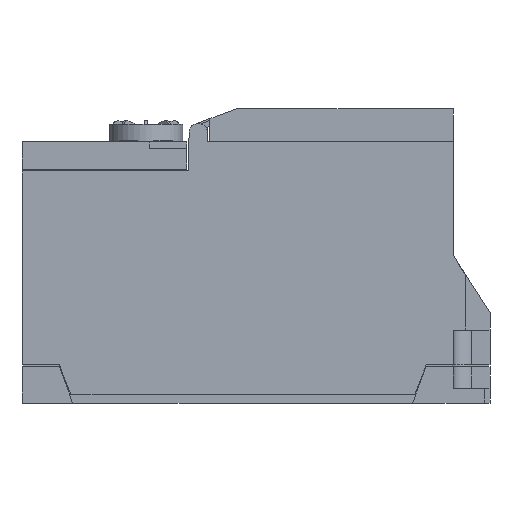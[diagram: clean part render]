
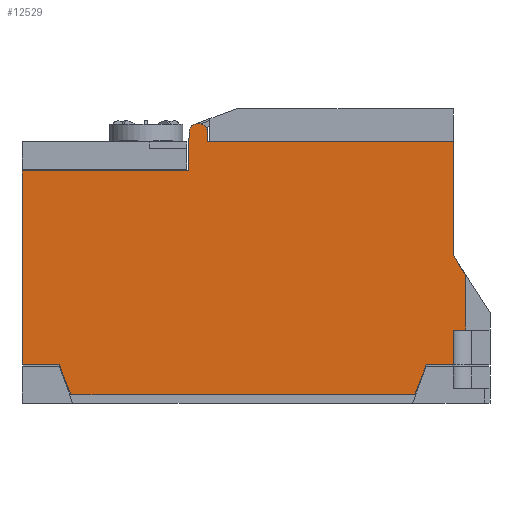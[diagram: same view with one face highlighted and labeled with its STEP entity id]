
A CAD part, left-side view. The second image highlights one B-rep face of the part: STEP entity #12529.
In plain terms, the highlighted planar face has unit normal (-1, 0, 0).
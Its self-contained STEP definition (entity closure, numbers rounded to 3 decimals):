
#1032=DIRECTION('',(0.,-0.362,0.932));
#1033=VECTOR('',#1032,8.796);
#1034=CARTESIAN_POINT('',(-34.,20.589,-7.7));
#1035=LINE('',#1034,#1033);
#1048=DIRECTION('',(0.,-1.,0.));
#1049=VECTOR('',#1048,10.206);
#1050=CARTESIAN_POINT('',(-34.,128.,0.5));
#1051=LINE('',#1050,#1049);
#1052=DIRECTION('',(0.,0.,1.));
#1053=VECTOR('',#1052,53.);
#1054=CARTESIAN_POINT('',(-34.,128.,0.5));
#1055=LINE('',#1054,#1053);
#1056=DIRECTION('',(0.,-0.017,1.));
#1057=VECTOR('',#1056,10.545);
#1058=CARTESIAN_POINT('',(-34.,82.484,53.5));
#1059=LINE('',#1058,#1057);
#1060=CARTESIAN_POINT('',(-34.,79.8,64.));
#1061=DIRECTION('',(1.,0.,0.));
#1062=DIRECTION('',(0.,1.,0.017));
#1063=AXIS2_PLACEMENT_3D('',#1060,#1061,#1062);
#1065=DIRECTION('',(0.,-0.017,-1.));
#1066=VECTOR('',#1065,2.544);
#1067=CARTESIAN_POINT('',(-34.,77.3,64.044));
#1068=LINE('',#1067,#1066);
#1069=DIRECTION('',(0.,0.,-1.));
#1070=VECTOR('',#1069,31.224);
#1071=CARTESIAN_POINT('',(-34.,10.,61.5));
#1072=LINE('',#1071,#1070);
#1073=DIRECTION('',(0.,-0.541,-0.841));
#1074=VECTOR('',#1073,6.281);
#1075=CARTESIAN_POINT('',(-34.,10.,30.276));
#1076=LINE('',#1075,#1074);
#1077=DIRECTION('',(0.,1.,0.));
#1078=VECTOR('',#1077,7.406);
#1079=CARTESIAN_POINT('',(-34.,10.,0.5));
#1080=LINE('',#1079,#1078);
#1097=DIRECTION('',(0.,-0.362,-0.932));
#1098=VECTOR('',#1097,8.796);
#1099=CARTESIAN_POINT('',(-34.,117.794,0.5));
#1100=LINE('',#1099,#1098);
#1256=DIRECTION('',(0.,-1.,0.));
#1257=VECTOR('',#1256,45.516);
#1258=CARTESIAN_POINT('',(-34.,128.,53.5));
#1259=LINE('',#1258,#1257);
#3580=DIRECTION('',(0.,0.,1.));
#3581=VECTOR('',#3580,9.5);
#3582=CARTESIAN_POINT('',(-34.,10.,0.5));
#3583=LINE('',#3582,#3581);
#3608=DIRECTION('',(0.,-1.,0.));
#3609=VECTOR('',#3608,67.256);
#3610=CARTESIAN_POINT('',(-34.,77.256,61.5));
#3611=LINE('',#3610,#3609);
#4718=DIRECTION('',(0.,-1.,0.));
#4719=VECTOR('',#4718,3.4);
#4720=CARTESIAN_POINT('',(-34.,10.,10.));
#4721=LINE('',#4720,#4719);
#4734=DIRECTION('',(0.,0.,-1.));
#4735=VECTOR('',#4734,14.994);
#4736=CARTESIAN_POINT('',(-34.,6.6,24.994));
#4737=LINE('',#4736,#4735);
#4786=DIRECTION('',(0.,-1.,0.));
#4787=VECTOR('',#4786,94.021);
#4788=CARTESIAN_POINT('',(-34.,114.611,-7.7));
#4789=LINE('',#4788,#4787);
#8871=CARTESIAN_POINT('',(-34.,114.611,-7.7));
#8872=CARTESIAN_POINT('',(-34.,20.589,-7.7));
#8873=VERTEX_POINT('',#8871);
#8874=VERTEX_POINT('',#8872);
#8957=CARTESIAN_POINT('',(-34.,128.,53.5));
#8958=VERTEX_POINT('',#8957);
#8961=CARTESIAN_POINT('',(-34.,10.,61.5));
#8963=VERTEX_POINT('',#8961);
#8969=CARTESIAN_POINT('',(-34.,82.3,64.044));
#8970=CARTESIAN_POINT('',(-34.,77.3,64.044));
#8971=VERTEX_POINT('',#8969);
#8972=VERTEX_POINT('',#8970);
#8977=CARTESIAN_POINT('',(-34.,77.256,61.5));
#8978=VERTEX_POINT('',#8977);
#9245=CARTESIAN_POINT('',(-34.,82.484,53.5));
#9246=VERTEX_POINT('',#9245);
#9367=CARTESIAN_POINT('',(-34.,6.6,10.));
#9369=VERTEX_POINT('',#9367);
#9375=CARTESIAN_POINT('',(-34.,10.,10.));
#9376=VERTEX_POINT('',#9375);
#9379=CARTESIAN_POINT('',(-34.,10.,30.276));
#9380=CARTESIAN_POINT('',(-34.,6.6,24.994));
#9381=VERTEX_POINT('',#9379);
#9382=VERTEX_POINT('',#9380);
#10701=CARTESIAN_POINT('',(-34.,128.,0.5));
#10703=VERTEX_POINT('',#10701);
#10788=CARTESIAN_POINT('',(-34.,117.794,0.5));
#10790=VERTEX_POINT('',#10788);
#10793=CARTESIAN_POINT('',(-34.,17.406,0.5));
#10795=VERTEX_POINT('',#10793);
#10800=CARTESIAN_POINT('',(-34.,10.,0.5));
#10801=VERTEX_POINT('',#10800);
#12492=CARTESIAN_POINT('',(-34.,128.,-7.7));
#12493=DIRECTION('',(-1.,0.,0.));
#12494=DIRECTION('',(0.,-1.,0.));
#12495=AXIS2_PLACEMENT_3D('',#12492,#12493,#12494);
#12496=PLANE('',#12495);
#12498=ORIENTED_EDGE('',*,*,#12497,.F.);
#12500=ORIENTED_EDGE('',*,*,#12499,.F.);
#12502=ORIENTED_EDGE('',*,*,#12501,.T.);
#12504=ORIENTED_EDGE('',*,*,#12503,.T.);
#12506=ORIENTED_EDGE('',*,*,#12505,.T.);
#12508=ORIENTED_EDGE('',*,*,#12507,.T.);
#12510=ORIENTED_EDGE('',*,*,#12509,.T.);
#12512=ORIENTED_EDGE('',*,*,#12511,.T.);
#12514=ORIENTED_EDGE('',*,*,#12513,.T.);
#12516=ORIENTED_EDGE('',*,*,#12515,.T.);
#12518=ORIENTED_EDGE('',*,*,#12517,.T.);
#12520=ORIENTED_EDGE('',*,*,#12519,.F.);
#12522=ORIENTED_EDGE('',*,*,#12521,.F.);
#12523=ORIENTED_EDGE('',*,*,#12436,.T.);
#12524=ORIENTED_EDGE('',*,*,#12410,.F.);
#12526=ORIENTED_EDGE('',*,*,#12525,.F.);
#12527=EDGE_LOOP('',(#12498,#12500,#12502,#12504,#12506,#12508,#12510,#12512,
#12514,#12516,#12518,#12520,#12522,#12523,#12524,#12526));
#12528=FACE_OUTER_BOUND('',#12527,.F.);
#12529=ADVANCED_FACE('',(#12528),#12496,.T.);
#1064=CIRCLE('',#1063,2.5);
#12410=EDGE_CURVE('',#8874,#10795,#1035,.T.);
#12436=EDGE_CURVE('',#10801,#10795,#1080,.T.);
#12497=EDGE_CURVE('',#10790,#8873,#1100,.T.);
#12499=EDGE_CURVE('',#10703,#10790,#1051,.T.);
#12501=EDGE_CURVE('',#10703,#8958,#1055,.T.);
#12503=EDGE_CURVE('',#8958,#9246,#1259,.T.);
#12505=EDGE_CURVE('',#9246,#8971,#1059,.T.);
#12507=EDGE_CURVE('',#8971,#8972,#1064,.T.);
#12509=EDGE_CURVE('',#8972,#8978,#1068,.T.);
#12511=EDGE_CURVE('',#8978,#8963,#3611,.T.);
#12513=EDGE_CURVE('',#8963,#9381,#1072,.T.);
#12515=EDGE_CURVE('',#9381,#9382,#1076,.T.);
#12517=EDGE_CURVE('',#9382,#9369,#4737,.T.);
#12519=EDGE_CURVE('',#9376,#9369,#4721,.T.);
#12521=EDGE_CURVE('',#10801,#9376,#3583,.T.);
#12525=EDGE_CURVE('',#8873,#8874,#4789,.T.);
